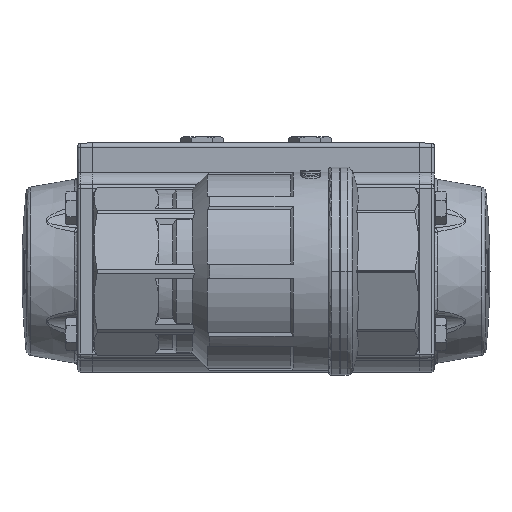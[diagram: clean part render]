
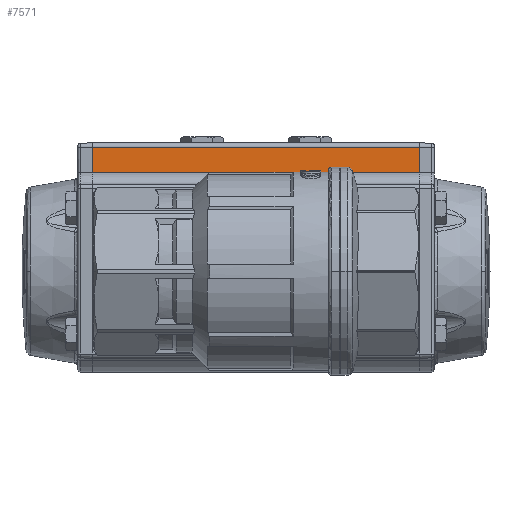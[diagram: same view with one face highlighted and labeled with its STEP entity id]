
A CAD part, front view. The second image highlights one B-rep face of the part: STEP entity #7571.
In plain terms, the highlighted planar face has unit normal (0, -1, 0).
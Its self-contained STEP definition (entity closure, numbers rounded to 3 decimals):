
#329 = DIRECTION ( 'NONE',  ( 0., -1., 0. ) ) ;
#1556 = LINE ( 'NONE', #9643, #55287 ) ;
#2206 = ORIENTED_EDGE ( 'NONE', *, *, #94565, .T. ) ;
#2702 = ORIENTED_EDGE ( 'NONE', *, *, #44327, .T. ) ;
#7571 = ADVANCED_FACE ( 'NONE', ( #36001 ), #21422, .T. ) ;
#8044 = CARTESIAN_POINT ( 'NONE',  ( 57.4, 71.5, 39. ) ) ;
#9643 = CARTESIAN_POINT ( 'NONE',  ( 0., 71.5, 34.5 ) ) ;
#11036 = VERTEX_POINT ( 'NONE', #29008 ) ;
#21036 = AXIS2_PLACEMENT_3D ( 'NONE', #64654, #329, #75456 ) ;
#21422 = PLANE ( 'NONE',  #21036 ) ;
#29008 = CARTESIAN_POINT ( 'NONE',  ( -57.4, 71.5, 43.5 ) ) ;
#35272 = EDGE_LOOP ( 'NONE', ( #2702, #80142, #40714, #2206 ) ) ;
#35974 = LINE ( 'NONE', #40767, #118449 ) ;
#36001 = FACE_OUTER_BOUND ( 'NONE', #35272, .T. ) ;
#38808 = VECTOR ( 'NONE', #127857, 1000. ) ;
#39985 = DIRECTION ( 'NONE',  ( 0., 0., 1. ) ) ;
#40714 = ORIENTED_EDGE ( 'NONE', *, *, #47128, .F. ) ;
#40767 = CARTESIAN_POINT ( 'NONE',  ( 0., 71.5, 43.5 ) ) ;
#44327 = EDGE_CURVE ( 'NONE', #64501, #11036, #35974, .T. ) ;
#47128 = EDGE_CURVE ( 'NONE', #67633, #129904, #1556, .T. ) ;
#50247 = CARTESIAN_POINT ( 'NONE',  ( -57.4, 71.5, 39. ) ) ;
#55287 = VECTOR ( 'NONE', #84783, 1000. ) ;
#64501 = VERTEX_POINT ( 'NONE', #137661 ) ;
#64654 = CARTESIAN_POINT ( 'NONE',  ( -57.4, 71.5, 34.5 ) ) ;
#67425 = LINE ( 'NONE', #50247, #38808 ) ;
#67633 = VERTEX_POINT ( 'NONE', #69062 ) ;
#69062 = CARTESIAN_POINT ( 'NONE',  ( 57.4, 71.5, 34.5 ) ) ;
#75456 = DIRECTION ( 'NONE',  ( 1., 0., 0. ) ) ;
#80142 = ORIENTED_EDGE ( 'NONE', *, *, #127196, .T. ) ;
#84783 = DIRECTION ( 'NONE',  ( -1., 0., 0. ) ) ;
#94565 = EDGE_CURVE ( 'NONE', #67633, #64501, #98607, .T. ) ;
#98607 = LINE ( 'NONE', #8044, #127186 ) ;
#112768 = CARTESIAN_POINT ( 'NONE',  ( -57.4, 71.5, 34.5 ) ) ;
#115971 = DIRECTION ( 'NONE',  ( -1., 0., 0. ) ) ;
#118449 = VECTOR ( 'NONE', #115971, 1000. ) ;
#127186 = VECTOR ( 'NONE', #39985, 1000. ) ;
#127196 = EDGE_CURVE ( 'NONE', #11036, #129904, #67425, .T. ) ;
#127857 = DIRECTION ( 'NONE',  ( 0., 0., -1. ) ) ;
#129904 = VERTEX_POINT ( 'NONE', #112768 ) ;
#137661 = CARTESIAN_POINT ( 'NONE',  ( 57.4, 71.5, 43.5 ) ) ;
